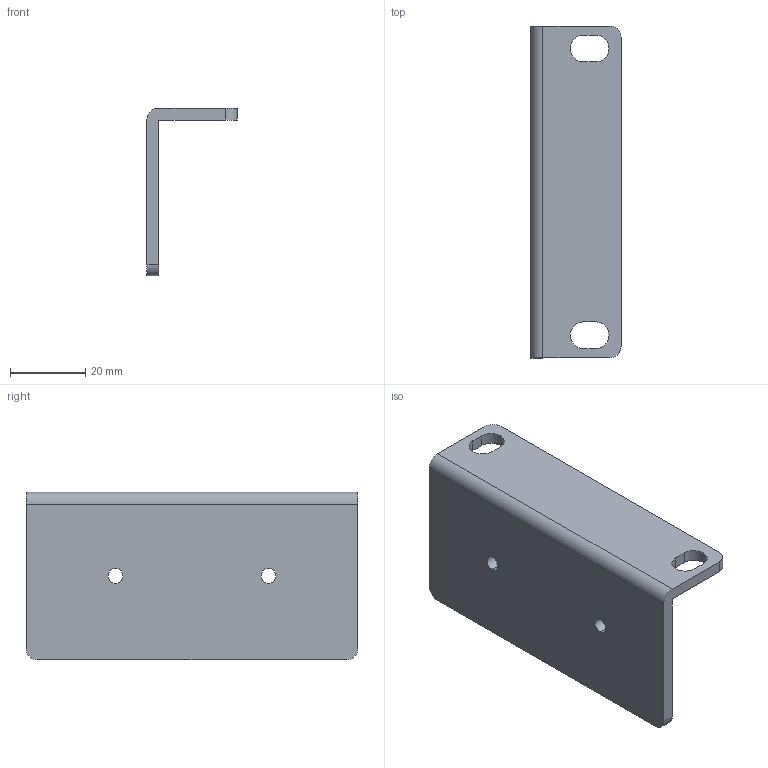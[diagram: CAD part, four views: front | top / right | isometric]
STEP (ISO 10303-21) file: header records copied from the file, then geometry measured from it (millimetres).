
FILE_DESCRIPTION((''),'2;1');
FILE_NAME('2450-360','2014-12-18T',('mboehnle'),('Keithley Instruments, Inc'),'PRO/ENGINEER BY PARAMETRIC TECHNOLOGY CORPORATION, 2012480','PRO/ENGINEER BY PARAMETRIC TECHNOLOGY CORPORATION, 2012480','');
FILE_SCHEMA(('CONFIG_CONTROL_DESIGN'));
Length unit declared in the file: inch
Products named in the file (1): 2450-360
Bounding box: 24 x 88.14 x 44.58 mm (x, y, z)
Volume: 17610.6 mm3; surface area: 12309.1 mm2
Topology: 1 solids, 1 shells, 25 faces, 69 edges, 46 vertices
Faces by surface type: cylinder 13, plane 12
Entity records: 865 total; most frequent: DIRECTION 145, CARTESIAN_POINT 140, ORIENTED_EDGE 138, EDGE_CURVE 69, AXIS2_PLACEMENT_3D 51, VERTEX_POINT 46, VECTOR 43, LINE 43
